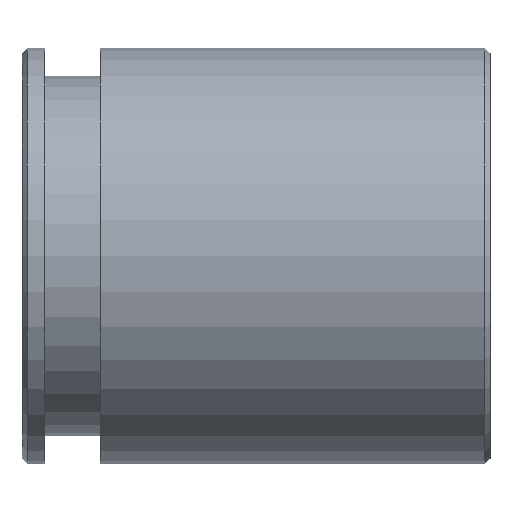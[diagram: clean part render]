
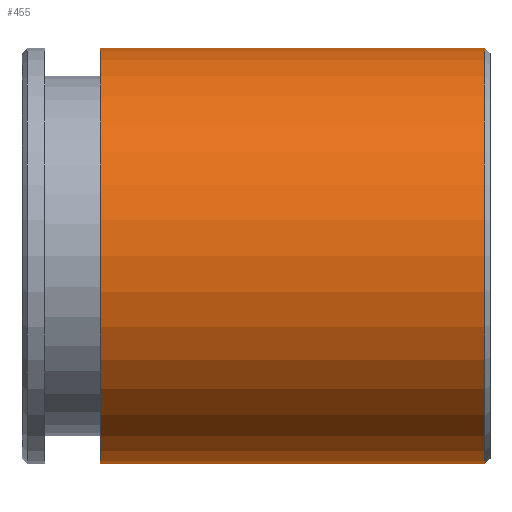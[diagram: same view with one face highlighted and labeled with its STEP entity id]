
A CAD part, top view. The second image highlights one B-rep face of the part: STEP entity #455.
In plain terms, the highlighted cylindrical face has radius 20 mm (diameter 40 mm), a partial arc.
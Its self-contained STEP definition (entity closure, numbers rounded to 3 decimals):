
#95=CARTESIAN_POINT('',(44.5,0.,0.));
#96=DIRECTION('',(1.,0.,0.));
#97=DIRECTION('',(0.,1.,0.));
#98=AXIS2_PLACEMENT_3D('',#95,#96,#97);
#103=DIRECTION('',(-1.,0.,0.));
#104=VECTOR('',#103,37.);
#105=CARTESIAN_POINT('',(44.5,20.,0.));
#106=LINE('',#105,#104);
#110=DIRECTION('',(-1.,0.,0.));
#111=VECTOR('',#110,37.);
#112=CARTESIAN_POINT('',(44.5,-20.,0.));
#113=LINE('',#112,#111);
#125=CARTESIAN_POINT('',(7.5,0.,0.));
#126=DIRECTION('',(1.,0.,0.));
#127=DIRECTION('',(0.,1.,0.));
#128=AXIS2_PLACEMENT_3D('',#125,#126,#127);
#314=CARTESIAN_POINT('',(44.5,20.,0.));
#316=VERTEX_POINT('',#314);
#317=CARTESIAN_POINT('',(7.5,20.,0.));
#318=VERTEX_POINT('',#317);
#338=CARTESIAN_POINT('',(44.5,-20.,0.));
#340=VERTEX_POINT('',#338);
#341=CARTESIAN_POINT('',(7.5,-20.,0.));
#342=VERTEX_POINT('',#341);
#441=CARTESIAN_POINT('',(-2.25,0.,0.));
#442=DIRECTION('',(1.,0.,0.));
#443=DIRECTION('',(0.,-1.,0.));
#444=AXIS2_PLACEMENT_3D('',#441,#442,#443);
#445=CYLINDRICAL_SURFACE('',#444,20.);
#447=ORIENTED_EDGE('',*,*,#446,.F.);
#448=ORIENTED_EDGE('',*,*,#436,.T.);
#450=ORIENTED_EDGE('',*,*,#449,.T.);
#452=ORIENTED_EDGE('',*,*,#451,.F.);
#453=EDGE_LOOP('',(#447,#448,#450,#452));
#454=FACE_OUTER_BOUND('',#453,.F.);
#99=CIRCLE('',#98,20.);
#129=CIRCLE('',#128,20.);
#436=EDGE_CURVE('',#316,#340,#99,.T.);
#446=EDGE_CURVE('',#316,#318,#106,.T.);
#449=EDGE_CURVE('',#340,#342,#113,.T.);
#451=EDGE_CURVE('',#318,#342,#129,.T.);
#455=ADVANCED_FACE('',(#454),#445,.T.);
